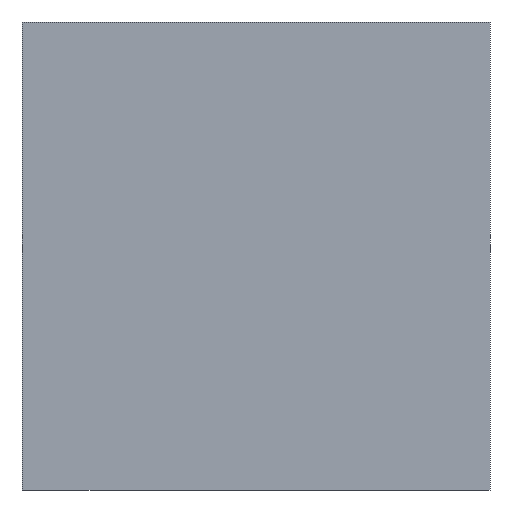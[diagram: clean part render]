
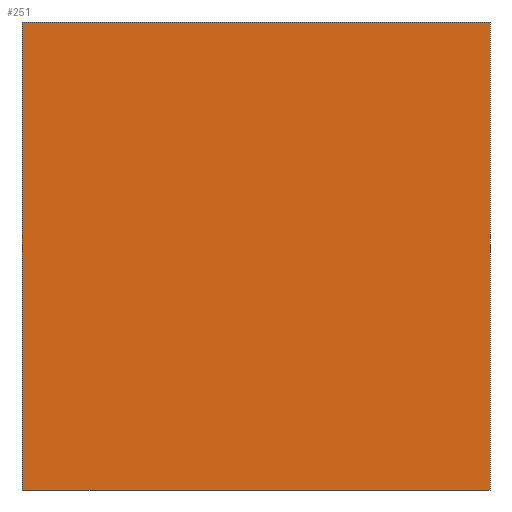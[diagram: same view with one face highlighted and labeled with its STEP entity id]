
A CAD part, front view. The second image highlights one B-rep face of the part: STEP entity #251.
In plain terms, the highlighted planar face has unit normal (0, -1, 0).
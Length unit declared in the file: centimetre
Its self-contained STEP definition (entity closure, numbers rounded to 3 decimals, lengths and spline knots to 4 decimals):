
#39 = ORIENTED_EDGE ( 'NONE', *, *, #243, .T. ) ;
#43 = EDGE_CURVE ( 'NONE', #554, #327, #522, .T. ) ;
#82 = CARTESIAN_POINT ( 'NONE',  ( 1000., 0., 1000. ) ) ;
#87 = DIRECTION ( 'NONE',  ( 1., 0., 0. ) ) ;
#93 = LINE ( 'NONE', #360, #214 ) ;
#113 = CARTESIAN_POINT ( 'NONE',  ( 1000., 0., 1000. ) ) ;
#125 = AXIS2_PLACEMENT_3D ( 'NONE', #266, #271, #449 ) ;
#135 = VECTOR ( 'NONE', #528, 100. ) ;
#152 = CARTESIAN_POINT ( 'NONE',  ( 0., 0., 0. ) ) ;
#167 = DIRECTION ( 'NONE',  ( 1., 0., 0. ) ) ;
#178 = FACE_OUTER_BOUND ( 'NONE', #190, .T. ) ;
#190 = EDGE_LOOP ( 'NONE', ( #39, #466, #338, #206 ) ) ;
#201 = EDGE_CURVE ( 'NONE', #327, #279, #405, .T. ) ;
#206 = ORIENTED_EDGE ( 'NONE', *, *, #548, .T. ) ;
#214 = VECTOR ( 'NONE', #87, 100. ) ;
#218 = LINE ( 'NONE', #572, #135 ) ;
#243 = EDGE_CURVE ( 'NONE', #330, #279, #93, .T. ) ;
#251 = ADVANCED_FACE ( 'NONE', ( #178 ), #530, .F. ) ;
#266 = CARTESIAN_POINT ( 'NONE',  ( 0., 0., 1000. ) ) ;
#271 = DIRECTION ( 'NONE',  ( 0., 1., 0. ) ) ;
#279 = VERTEX_POINT ( 'NONE', #335 ) ;
#306 = DIRECTION ( 'NONE',  ( 0., 0., -1. ) ) ;
#327 = VERTEX_POINT ( 'NONE', #113 ) ;
#330 = VERTEX_POINT ( 'NONE', #152 ) ;
#335 = CARTESIAN_POINT ( 'NONE',  ( 1000., 0., 0. ) ) ;
#338 = ORIENTED_EDGE ( 'NONE', *, *, #43, .F. ) ;
#360 = CARTESIAN_POINT ( 'NONE',  ( 0., 0., 0. ) ) ;
#405 = LINE ( 'NONE', #82, #472 ) ;
#449 = DIRECTION ( 'NONE',  ( 0., 0., 1. ) ) ;
#466 = ORIENTED_EDGE ( 'NONE', *, *, #201, .F. ) ;
#471 = CARTESIAN_POINT ( 'NONE',  ( 0., 0., 1000. ) ) ;
#472 = VECTOR ( 'NONE', #306, 100. ) ;
#477 = VECTOR ( 'NONE', #167, 100. ) ;
#480 = CARTESIAN_POINT ( 'NONE',  ( 0., 0., 1000. ) ) ;
#522 = LINE ( 'NONE', #471, #477 ) ;
#528 = DIRECTION ( 'NONE',  ( 0., 0., -1. ) ) ;
#530 = PLANE ( 'NONE',  #125 ) ;
#548 = EDGE_CURVE ( 'NONE', #554, #330, #218, .T. ) ;
#554 = VERTEX_POINT ( 'NONE', #480 ) ;
#572 = CARTESIAN_POINT ( 'NONE',  ( 0., 0., 1000. ) ) ;
